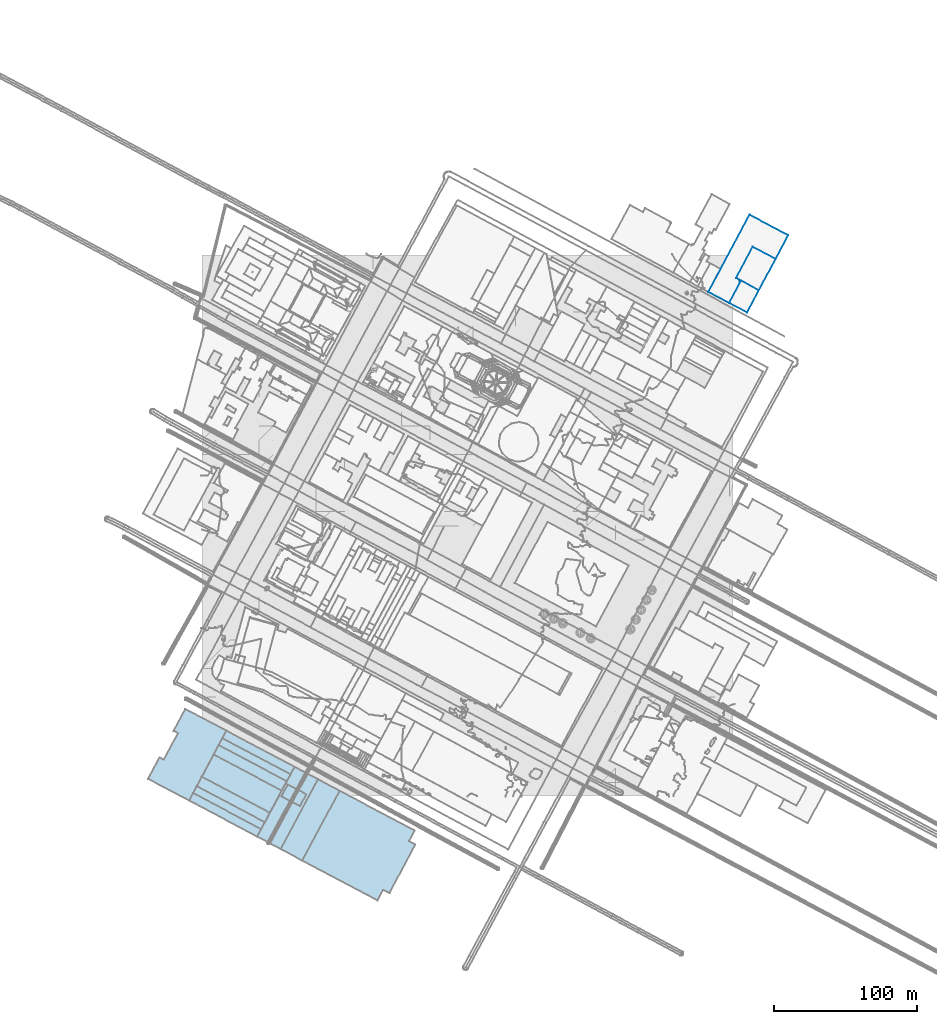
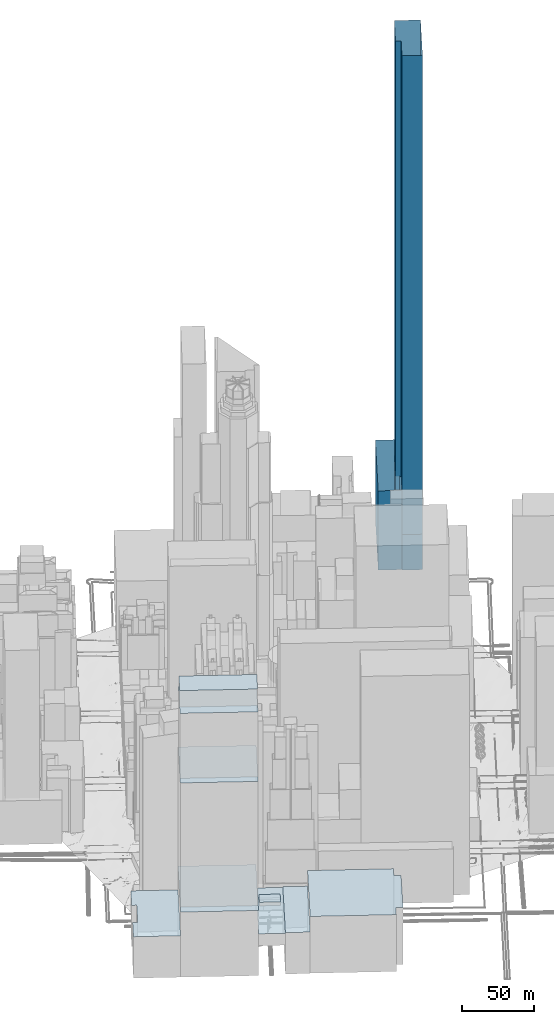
# Not in any storey, part 31 of 76: 9 roofs, 3 walls.
"""IFC2X3 model written with IfcOpenShell, lengths in metres."""

from ifc_helpers import new_model, si_unit, frame, origin_with_axes, place, context, subcontext, project, faceted_brep, element, save


model = new_model("IFC2X3")

# Units and contexts
model_context = context("Model", 3, precision=1e-05, world=origin_with_axes())
body_context = subcontext(model_context, "Body", "Model", "MODEL_VIEW")
ifc_project = project(units=[si_unit("AREAUNIT", "SQUARE_METRE"), si_unit("LENGTHUNIT", "METRE")], contexts=[model_context])

# Walls
wall_1_placement = place(None, frame((369.7036563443, 345.7479637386, 18.6004102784), z_axis=(0.0, 0.0, 1.0), x_axis=(1.0, 0.0, 0.0)))
element("IfcWall", 1, at=wall_1_placement, Name="Mur 0", context=body_context, shape_type="Brep", body=[
    faceted_brep([(12.5538989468, -6.6594085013, 30.0), (0.0, 0.0, 30.0), (12.5538989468, -6.6594085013, 0.0), (0.0, 0.0, 0.0), (20.9058219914, 8.9810939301, 30.0), (20.9058219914, 8.9810939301, 0.0), (8.3520704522, 15.6293873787, 30.0), (8.3520704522, 15.6293873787, 0.0)], [[[0, 1, 2]], [[2, 1, 3]], [[4, 0, 5]], [[5, 0, 2]], [[1, 6, 3]], [[3, 6, 7]], [[6, 4, 7]], [[7, 4, 5]]]),
])
wall_2_placement = place(None, frame((369.7036563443, 345.7479637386, 18.6004102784), z_axis=(0.0, 0.0, 1.0), x_axis=(1.0, 0.0, 0.0)))
element("IfcWall", 2, at=wall_2_placement, Name="Mur 0", context=body_context, shape_type="Brep", body=[
    faceted_brep([(12.5538989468, -6.6594085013, 435.0), (0.0, 0.0, 435.0), (12.5538989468, -6.6594085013, 0.0), (0.0, 0.0, 0.0), (32.6119575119, 30.8779721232, 435.0), (32.6119575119, 30.8779721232, 0.0), (16.5756487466, 39.3841472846, 435.0), (16.5756487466, 39.3841472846, 0.0), (4.8696102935, 17.4761939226, 435.0), (4.8696102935, 17.4761939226, 0.0), (8.3520704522, 15.6293873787, 435.0), (8.3520704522, 15.6293873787, 0.0)], [[[0, 1, 2]], [[2, 1, 3]], [[4, 0, 5]], [[5, 0, 2]], [[6, 4, 7]], [[7, 4, 5]], [[8, 6, 9]], [[9, 6, 7]], [[1, 10, 3]], [[3, 10, 11]], [[10, 8, 11]], [[11, 8, 9]]]),
])
wall_3_placement = place(None, frame((355.1197740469, 353.4828688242, 19.0004593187), z_axis=(0.0, 0.0, 1.0), x_axis=(1.0, 0.0, 0.0)))
element("IfcWall", 3, at=wall_3_placement, Name="Mur 0", context=body_context, shape_type="Brep", body=[
    faceted_brep([(14.5838822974, -7.7349050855, 67.0), (0.0, 0.0, 67.0), (14.5838822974, -7.7349050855, 0.0), (0.0, 0.0, 0.0), (22.0519980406, 6.2410466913, 67.0), (22.0519980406, 6.2410466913, 0.0), (21.7807161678, 8.5138501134, 67.0), (21.7807161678, 8.5138501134, 0.0), (19.4534925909, 9.741288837, 67.0), (19.4534925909, 9.741288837, 0.0), (31.159531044, 31.649242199, 67.0), (31.159531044, 31.649242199, 0.0), (47.1958398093, 23.1430670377, 67.0), (47.1958398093, 23.1430670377, 0.0), (56.0517837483, 39.7109589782, 67.0), (56.0517837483, 39.7109589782, 0.0), (28.9225776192, 54.1052639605, 67.0), (28.9225776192, 54.1052639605, 0.0)], [[[0, 1, 2]], [[2, 1, 3]], [[4, 0, 5]], [[5, 0, 2]], [[6, 4, 7]], [[7, 4, 5]], [[8, 6, 9]], [[9, 6, 7]], [[10, 8, 11]], [[11, 8, 9]], [[12, 10, 13]], [[13, 10, 11]], [[14, 12, 15]], [[15, 12, 13]], [[1, 16, 3]], [[3, 16, 17]], [[16, 14, 17]], [[17, 14, 15]]]),
])

# Roofs
roof_1_placement = place(None, frame((70.4319082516, -45.3124381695, 19.6413035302), z_axis=(0.0, 0.0, 1.0), x_axis=(1.0, 0.0, 0.0)))
element("IfcRoof", 4, at=roof_1_placement, Name="Toiture 0", ShapeType="NOTDEFINED", context=body_context, shape_type="Brep", body=[
    faceted_brep([(26.1498243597, 48.9425792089, 48.0), (0.0, 0.0, 48.0), (52.7563009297, -27.9312178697, 48.0), (56.721804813, -20.4799520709, 48.0), (61.1215341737, -22.7936176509, 48.0), (79.2214604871, 11.2896457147, 48.0), (74.804734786, 13.6142050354, 48.0), (78.7949988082, 21.1101810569, 48.0)], [[[0, 1, 2]], [[3, 4, 5]], [[6, 7, 0]], [[0, 2, 3]], [[3, 5, 6]], [[6, 0, 3]]]),
])
roof_2_placement = place(None, frame((-37.764592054, 12.0631870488, 18.5499973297), z_axis=(0.0, 0.0, 1.0), x_axis=(1.0, 0.0, 0.0)))
element("IfcRoof", 5, at=roof_2_placement, Name="Toiture 0", ShapeType="NOTDEFINED", context=body_context, shape_type="Brep", body=[
    faceted_brep([(8.0475860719, 15.0591407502, 35.0), (0.0, 0.0, 35.0), (28.8870060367, -15.2414440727, 35.0), (55.0371870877, 33.7008524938, 35.0), (26.1587518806, 48.9422915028, 35.0), (17.9295410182, 33.536852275, 35.0), (21.0212047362, 31.907372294, 35.0), (11.1393837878, 13.4185558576, 35.0)], [[[0, 1, 2]], [[2, 3, 4]], [[4, 5, 6]], [[7, 0, 2]], [[2, 4, 6]], [[6, 7, 2]]]),
])
roof_3_placement = place(None, frame((0.0457305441, 13.5231043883, 233.5817263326), z_axis=(0.0, 0.0, 1.0), x_axis=(1.0, 0.0, 0.0)))
element("IfcRoof", 6, at=roof_3_placement, Name="Toiture 0", ShapeType="NOTDEFINED", context=body_context, shape_type="Brep", body=[
    faceted_brep([(8.2954448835, 15.5172515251, 14.0), (0.0, 0.0, 14.0), (47.6860402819, -25.3593207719, 14.0), (56.0060946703, -9.7862176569, 14.0)], [[[0, 1, 2]], [[2, 3, 0]]]),
])
roof_4_placement = place(None, frame((-3.482289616, 6.9207531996, 178.5499973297), z_axis=(0.0, 0.0, 1.0), x_axis=(1.0, 0.0, 0.0)))
element("IfcRoof", 7, at=roof_4_placement, Name="Toiture 0", ShapeType="NOTDEFINED", context=body_context, shape_type="Brep", body=[
    faceted_brep([(15.3430229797, 28.7218621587, 55.0), (0.0, 0.0, 55.0), (47.6860692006, -25.359343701, 55.0), (63.0622131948, 3.4074130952, 55.0)], [[[0, 1, 2]], [[2, 3, 0]]]),
])
roof_5_placement = place(None, frame((-6.0684346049, 2.0834835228, 73.5499973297), z_axis=(0.0, 0.0, 1.0), x_axis=(1.0, 0.0, 0.0)))
element("IfcRoof", 8, at=roof_5_placement, Name="Toiture 0", ShapeType="NOTDEFINED", context=body_context, shape_type="Brep", body=[
    faceted_brep([(20.5236005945, 38.4076070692, 105.0), (0.0, 0.0, 105.0), (47.6862192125, -25.3704612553, 105.0), (68.234328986, 13.0930768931, 105.0)], [[[0, 1, 2]], [[2, 3, 0]]]),
])
roof_6_placement = place(None, frame((-8.8775860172, -3.1782570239, 18.5499973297), z_axis=(0.0, 0.0, 1.0), x_axis=(1.0, 0.0, 0.0)))
element("IfcRoof", 9, at=roof_6_placement, Name="Toiture 0", ShapeType="NOTDEFINED", context=body_context, shape_type="Brep", body=[
    faceted_brep([(26.150181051, 48.9422965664, 55.0), (0.0, 0.0, 55.0), (47.7107911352, -25.3035811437, 55.0), (73.869197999, 23.6389834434, 55.0)], [[[0, 1, 2]], [[2, 3, 0]]]),
])
roof_7_placement = place(None, frame((55.3366535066, -37.1942935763, 19.4063848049), z_axis=(0.0, 0.0, 1.0), x_axis=(1.0, 0.0, 0.0)))
element("IfcRoof", 10, at=roof_7_placement, Name="Toiture 0", ShapeType="NOTDEFINED", context=body_context, shape_type="Brep", body=[
    faceted_brep([(26.1500207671, 48.9314246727, 35.0), (0.0, 0.0, 35.0), (15.095254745, -8.1181445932, 35.0), (41.2450791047, 40.8244346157, 35.0)], [[[0, 1, 2]], [[2, 3, 0]]]),
])
roof_8_placement = place(None, frame((55.8285008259, -0.2958209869, 54.4127792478), z_axis=(0.0, 0.0, 1.0), x_axis=(1.0, 0.0, 0.0)))
element("IfcRoof", 11, at=roof_8_placement, Name="Toiture 0", ShapeType="NOTDEFINED", context=body_context, shape_type="Brep", body=[
    faceted_brep([(4.453084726, 8.356171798, 3.0), (0.0, 0.0, 3.0), (13.0041051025, -6.8767632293, 3.0), (17.4570509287, 1.4905172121, 3.0)], [[[0, 1, 2]], [[2, 3, 0]]]),
])
roof_9_placement = place(None, frame((38.833205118, -28.4818381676, 43.7777920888), z_axis=(0.0, 0.0, 1.0), x_axis=(1.0, 0.0, 0.0)))
element("IfcRoof", 12, at=roof_9_placement, Name="Toiture 0", ShapeType="NOTDEFINED", context=body_context, shape_type="Brep", body=[
    faceted_brep([(26.1584068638, 48.9425645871, 10.0), (0.0, 0.0, 10.0), (16.5034483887, -8.7124554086, 10.0), (42.6534691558, 40.2189692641, 10.0)], [[[0, 1, 2]], [[2, 3, 0]]]),
])

save(model, "model.ifc")
